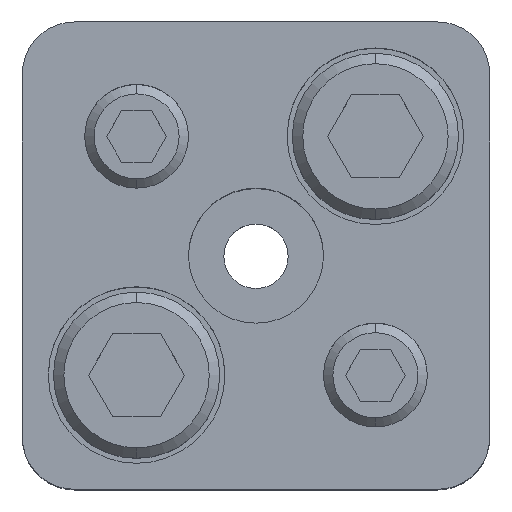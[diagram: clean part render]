
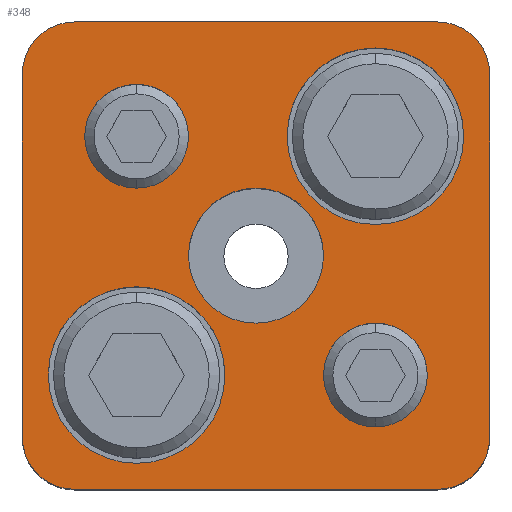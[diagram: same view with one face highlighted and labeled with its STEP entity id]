
A CAD part, top view. The second image highlights one B-rep face of the part: STEP entity #348.
In plain terms, the highlighted planar face has unit normal (0, 0, 1).
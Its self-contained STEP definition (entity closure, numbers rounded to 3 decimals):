
#173=PLANE('',#2995);
#248=FACE_BOUND('',#745,.T.);
#249=FACE_BOUND('',#746,.T.);
#250=FACE_BOUND('',#747,.T.);
#251=FACE_BOUND('',#748,.T.);
#252=FACE_BOUND('',#749,.T.);
#253=FACE_BOUND('',#750,.T.);
#348=ADVANCED_FACE('',(#248,#249,#250,#251,#252,#253),#173,.T.);
#745=EDGE_LOOP('',(#1597,#1598,#1599,#1600,#1601,#1602,#1603,#1604));
#746=EDGE_LOOP('',(#1605,#1606));
#747=EDGE_LOOP('',(#1607,#1608));
#748=EDGE_LOOP('',(#1609,#1610));
#749=EDGE_LOOP('',(#1611,#1612));
#750=EDGE_LOOP('',(#1613,#1614));
#934=LINE('',#4430,#1142);
#935=LINE('',#4434,#1143);
#936=LINE('',#4438,#1144);
#937=LINE('',#4442,#1145);
#1142=VECTOR('',#3559,1.);
#1143=VECTOR('',#3562,1.);
#1144=VECTOR('',#3565,1.);
#1145=VECTOR('',#3568,1.);
#1597=ORIENTED_EDGE('',*,*,#2454,.T.);
#1598=ORIENTED_EDGE('',*,*,#2455,.T.);
#1599=ORIENTED_EDGE('',*,*,#2456,.T.);
#1600=ORIENTED_EDGE('',*,*,#2457,.T.);
#1601=ORIENTED_EDGE('',*,*,#2458,.T.);
#1602=ORIENTED_EDGE('',*,*,#2459,.T.);
#1603=ORIENTED_EDGE('',*,*,#2460,.T.);
#1604=ORIENTED_EDGE('',*,*,#2461,.T.);
#1605=ORIENTED_EDGE('',*,*,#2462,.F.);
#1606=ORIENTED_EDGE('',*,*,#2463,.F.);
#1607=ORIENTED_EDGE('',*,*,#2464,.F.);
#1608=ORIENTED_EDGE('',*,*,#2465,.F.);
#1609=ORIENTED_EDGE('',*,*,#2440,.F.);
#1610=ORIENTED_EDGE('',*,*,#2436,.F.);
#1611=ORIENTED_EDGE('',*,*,#2434,.F.);
#1612=ORIENTED_EDGE('',*,*,#2430,.F.);
#1613=ORIENTED_EDGE('',*,*,#2466,.T.);
#1614=ORIENTED_EDGE('',*,*,#2467,.T.);
#2135=VERTEX_POINT('',#4378);
#2136=VERTEX_POINT('',#4379);
#2139=VERTEX_POINT('',#4391);
#2140=VERTEX_POINT('',#4392);
#2151=VERTEX_POINT('',#4428);
#2152=VERTEX_POINT('',#4429);
#2153=VERTEX_POINT('',#4431);
#2154=VERTEX_POINT('',#4433);
#2155=VERTEX_POINT('',#4435);
#2156=VERTEX_POINT('',#4437);
#2157=VERTEX_POINT('',#4439);
#2158=VERTEX_POINT('',#4441);
#2159=VERTEX_POINT('',#4444);
#2160=VERTEX_POINT('',#4445);
#2161=VERTEX_POINT('',#4448);
#2162=VERTEX_POINT('',#4449);
#2163=VERTEX_POINT('',#4452);
#2164=VERTEX_POINT('',#4453);
#2430=EDGE_CURVE('',#2135,#2136,#2735,.T.);
#2434=EDGE_CURVE('',#2136,#2135,#2737,.T.);
#2436=EDGE_CURVE('',#2139,#2140,#2739,.T.);
#2440=EDGE_CURVE('',#2140,#2139,#2741,.T.);
#2454=EDGE_CURVE('',#2151,#2152,#2751,.T.);
#2455=EDGE_CURVE('',#2152,#2153,#934,.T.);
#2456=EDGE_CURVE('',#2153,#2154,#2752,.T.);
#2457=EDGE_CURVE('',#2154,#2155,#935,.T.);
#2458=EDGE_CURVE('',#2155,#2156,#2753,.T.);
#2459=EDGE_CURVE('',#2156,#2157,#936,.T.);
#2460=EDGE_CURVE('',#2157,#2158,#2754,.T.);
#2461=EDGE_CURVE('',#2158,#2151,#937,.T.);
#2462=EDGE_CURVE('',#2159,#2160,#2755,.T.);
#2463=EDGE_CURVE('',#2160,#2159,#2756,.T.);
#2464=EDGE_CURVE('',#2161,#2162,#2757,.T.);
#2465=EDGE_CURVE('',#2162,#2161,#2758,.T.);
#2466=EDGE_CURVE('',#2163,#2164,#2759,.T.);
#2467=EDGE_CURVE('',#2164,#2163,#2760,.T.);
#2735=CIRCLE('',#2959,5.);
#2737=CIRCLE('',#2962,5.);
#2739=CIRCLE('',#2966,5.);
#2741=CIRCLE('',#2969,5.);
#2751=CIRCLE('',#2985,5.);
#2752=CIRCLE('',#2986,5.);
#2753=CIRCLE('',#2987,5.);
#2754=CIRCLE('',#2988,5.);
#2755=CIRCLE('',#2989,8.5);
#2756=CIRCLE('',#2990,8.5);
#2757=CIRCLE('',#2991,8.5);
#2758=CIRCLE('',#2992,8.5);
#2759=CIRCLE('',#2993,6.5);
#2760=CIRCLE('',#2994,6.5);
#2959=AXIS2_PLACEMENT_3D('',#4377,#3497,#3498);
#2962=AXIS2_PLACEMENT_3D('',#4386,#3505,#3506);
#2966=AXIS2_PLACEMENT_3D('',#4390,#3513,#3514);
#2969=AXIS2_PLACEMENT_3D('',#4399,#3521,#3522);
#2985=AXIS2_PLACEMENT_3D('',#4427,#3557,#3558);
#2986=AXIS2_PLACEMENT_3D('',#4432,#3560,#3561);
#2987=AXIS2_PLACEMENT_3D('',#4436,#3563,#3564);
#2988=AXIS2_PLACEMENT_3D('',#4440,#3566,#3567);
#2989=AXIS2_PLACEMENT_3D('',#4443,#3569,#3570);
#2990=AXIS2_PLACEMENT_3D('',#4446,#3571,#3572);
#2991=AXIS2_PLACEMENT_3D('',#4447,#3573,#3574);
#2992=AXIS2_PLACEMENT_3D('',#4450,#3575,#3576);
#2993=AXIS2_PLACEMENT_3D('',#4451,#3577,#3578);
#2994=AXIS2_PLACEMENT_3D('',#4454,#3579,#3580);
#2995=AXIS2_PLACEMENT_3D('',#4455,#3581,#3582);
#3497=DIRECTION('',(0.,0.,1.));
#3498=DIRECTION('',(-1.,0.,0.));
#3505=DIRECTION('',(0.,0.,1.));
#3506=DIRECTION('',(1.,0.,0.));
#3513=DIRECTION('',(0.,0.,1.));
#3514=DIRECTION('',(-1.,0.,0.));
#3521=DIRECTION('',(0.,0.,1.));
#3522=DIRECTION('',(1.,0.,0.));
#3557=DIRECTION('',(0.,0.,1.));
#3558=DIRECTION('',(-0.707,0.707,0.));
#3559=DIRECTION('',(0.,1.,0.));
#3560=DIRECTION('',(0.,0.,1.));
#3561=DIRECTION('',(-0.707,-0.707,0.));
#3562=DIRECTION('',(-1.,0.,0.));
#3563=DIRECTION('',(0.,0.,1.));
#3564=DIRECTION('',(0.707,-0.707,0.));
#3565=DIRECTION('',(0.,-1.,0.));
#3566=DIRECTION('',(0.,0.,1.));
#3567=DIRECTION('',(0.707,0.707,0.));
#3568=DIRECTION('',(1.,0.,0.));
#3569=DIRECTION('',(0.,0.,1.));
#3570=DIRECTION('',(1.,0.,0.));
#3571=DIRECTION('',(0.,0.,1.));
#3572=DIRECTION('',(-1.,0.,0.));
#3573=DIRECTION('',(0.,0.,1.));
#3574=DIRECTION('',(1.,0.,0.));
#3575=DIRECTION('',(0.,0.,1.));
#3576=DIRECTION('',(-1.,0.,0.));
#3577=DIRECTION('',(0.,0.,-1.));
#3578=DIRECTION('',(-1.,0.,0.));
#3579=DIRECTION('',(0.,0.,-1.));
#3580=DIRECTION('',(1.,0.,0.));
#3581=DIRECTION('',(0.,0.,1.));
#3582=DIRECTION('',(-1.,0.,0.));
#4377=CARTESIAN_POINT('',(11.5,-11.5,40.));
#4378=CARTESIAN_POINT('',(11.5,-16.5,40.));
#4379=CARTESIAN_POINT('',(11.5,-6.5,40.));
#4386=CARTESIAN_POINT('',(11.5,-11.5,40.));
#4390=CARTESIAN_POINT('',(-11.5,11.5,40.));
#4391=CARTESIAN_POINT('',(-11.5,6.5,40.));
#4392=CARTESIAN_POINT('',(-11.5,16.5,40.));
#4399=CARTESIAN_POINT('',(-11.5,11.5,40.));
#4427=CARTESIAN_POINT('',(17.5,-17.5,40.));
#4428=CARTESIAN_POINT('',(17.5,-22.5,40.));
#4429=CARTESIAN_POINT('',(22.5,-17.5,40.));
#4430=CARTESIAN_POINT('',(22.5,17.5,40.));
#4431=CARTESIAN_POINT('',(22.5,17.5,40.));
#4432=CARTESIAN_POINT('',(17.5,17.5,40.));
#4433=CARTESIAN_POINT('',(17.5,22.5,40.));
#4434=CARTESIAN_POINT('',(-17.5,22.5,40.));
#4435=CARTESIAN_POINT('',(-17.5,22.5,40.));
#4436=CARTESIAN_POINT('',(-17.5,17.5,40.));
#4437=CARTESIAN_POINT('',(-22.5,17.5,40.));
#4438=CARTESIAN_POINT('',(-22.5,17.5,40.));
#4439=CARTESIAN_POINT('',(-22.5,-17.5,40.));
#4440=CARTESIAN_POINT('',(-17.5,-17.5,40.));
#4441=CARTESIAN_POINT('',(-17.5,-22.5,40.));
#4442=CARTESIAN_POINT('',(-17.5,-22.5,40.));
#4443=CARTESIAN_POINT('',(11.5,11.5,40.));
#4444=CARTESIAN_POINT('',(11.5,20.,40.));
#4445=CARTESIAN_POINT('',(11.5,3.,40.));
#4446=CARTESIAN_POINT('',(11.5,11.5,40.));
#4447=CARTESIAN_POINT('',(-11.5,-11.5,40.));
#4448=CARTESIAN_POINT('',(-11.5,-3.,40.));
#4449=CARTESIAN_POINT('',(-11.5,-20.,40.));
#4450=CARTESIAN_POINT('',(-11.5,-11.5,40.));
#4451=CARTESIAN_POINT('',(0.,0.,40.));
#4452=CARTESIAN_POINT('',(0.,6.5,40.));
#4453=CARTESIAN_POINT('',(0.,-6.5,40.));
#4454=CARTESIAN_POINT('',(0.,0.,40.));
#4455=CARTESIAN_POINT('',(17.5,-22.5,40.));
